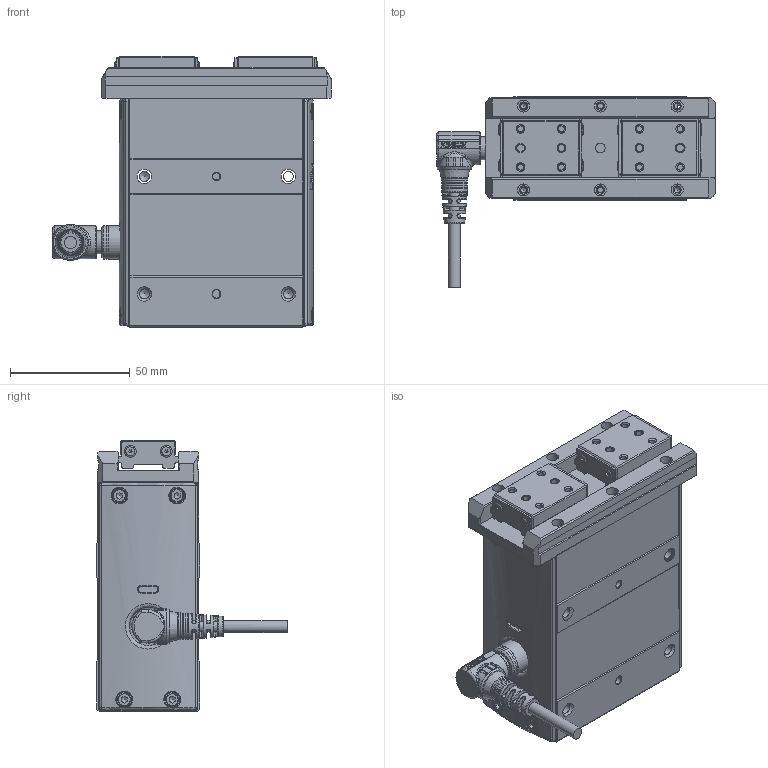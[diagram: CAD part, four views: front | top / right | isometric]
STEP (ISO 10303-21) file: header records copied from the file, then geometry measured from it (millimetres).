
FILE_DESCRIPTION(/* description */ (''),/* implementation_level */ '2;1');
FILE_NAME(/* name */ 'D:\2025.02.25 帶電匯整給泊舟\CHZ2-S22-WL.stp',/* time_stamp */ '2025-02-26T11:02:37+08:00',/* author */ ('T10033'),/* organization */ (''),/* preprocessor_version */ 'ST-DEVELOPER v18.1',/* originating_system */ 'Autodesk Inventor 2020',/* authorisation */ '');
FILE_SCHEMA (('CONFIG_CONTROL_DESIGN'));
Products named in the file (7): CHZ2-N22_(線直出+帶夾具); 12008-000057-02_蓋板修改; 慶陞金屬頭; 6WT3E5DF_Shrinkwrap_1; 63T6E3_Shrinkwrap_1; 43Y6E3TR_Shrinkwrap_1; M12-14PIN 線端90度接頭-05中繼線
Assembly tree (6 placements, depth 2):
  CHZ2-N22_(線直出+帶夾具)
    12008-000057-02_蓋板修改
    慶陞金屬頭
    6WT3E5DF_Shrinkwrap_1
    63T6E3_Shrinkwrap_1
    43Y6E3TR_Shrinkwrap_1
    M12-14PIN 線端90度接頭-05中繼線
Bounding box: 116.3 x 79.5 x 113 mm (x, y, z)
Volume: 360016 mm3; surface area: 81240.4 mm2
Topology: 44 solids, 49 shells, 2539 faces, 6850 edges, 4532 vertices
Faces by surface type: plane 1288, cylinder 568, cone 395, bspline 155, torus 113, sphere 20
Full cylindrical faces by diameter (mm): 0.6 x14, 0.65 x14, 1 x14, 2.013 x8, 2.224 x8, 2.459 x22, 2.5 x8, 2.7 x8, 2.8 x3, 3 x18, 3.4 x6, 4 x3, 4.134 x12, 5 x15, 5.5 x12, 6.647 x2, 8 x3, 8.9 x1, 9.5 x2, 9.6 x1, 10.5 x2, 10.9 x1, 11 x2, 11.2 x1, 11.25 x1, 12 x1, 13 x1, 13.8 x1, 14 x2, 14.4 x1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
Entity records: 110358 total; most frequent: CARTESIAN_POINT 42932, DIRECTION 13624, ORIENTED_EDGE 13590, EDGE_CURVE 6813, AXIS2_PLACEMENT_3D 5132, VERTEX_POINT 4531, LINE 3360, VECTOR 3360
